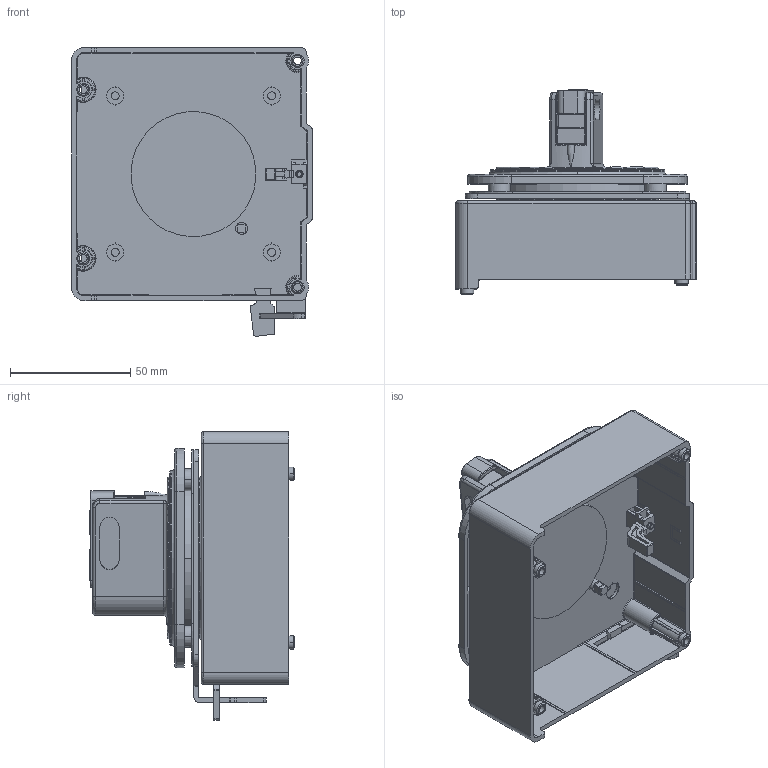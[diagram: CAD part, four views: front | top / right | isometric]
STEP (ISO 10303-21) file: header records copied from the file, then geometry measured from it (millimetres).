
FILE_DESCRIPTION(/* description */ (''),/* implementation_level */ '2;1');
FILE_NAME(/* name */ 'TFG25GP_3D DATA.stp',/* time_stamp */ '2018-06-05T09:29:24+09:00',/* author */ (''),/* organization */ (''),/* preprocessor_version */ 'ST-DEVELOPER v15',/* originating_system */ 'SIEMENS PLM Software NX 9.0',/* authorisation */ '');
FILE_SCHEMA (('AP203_CONFIGURATION_CONTROLLED_3D_DESIGN_OF_MECHANICAL_PARTS_AND_ASSEMBLIES_MIM_LF { 1 0 10303 403 2 1 2}'));
Products named in the file (14): G1_HM_HANDLE67800; G1_HM_LOCK_BUTTON85148; G1_HM_DOOR_COVER; U2_HM_FRAME; G1_HM_RELEASE_PIN111353; G3_HM_RELEASE_G_LEVER; U2_HM_TRIP_BUTTON; G1_HM_TFG_UPPER_LABEL141357; G3_HM_DOOR_LOCK_PLATE; G1_HM_RUBBER_PLATE; G1_HM_DOOR_COVER_ASSY_ASM; G1_HM_HANDLE_ASSY_ASM67809; U2_HM_TFG_U4_BASE_ASSY_ASM; u2_tfg_25gp_u4_asm_stp
Assembly tree (13 placements, depth 4):
  u2_tfg_25gp_u4_asm_stp
    G1_HM_RUBBER_PLATE
    U2_HM_TFG_U4_BASE_ASSY_ASM
      G1_HM_TFG_UPPER_LABEL141357
      U2_HM_TRIP_BUTTON
      G3_HM_RELEASE_G_LEVER
      G1_HM_RELEASE_PIN111353
      G1_HM_HANDLE_ASSY_ASM67809
        G1_HM_LOCK_BUTTON85148
        G1_HM_HANDLE67800
      U2_HM_FRAME
    G1_HM_DOOR_COVER_ASSY_ASM
      G1_HM_DOOR_COVER
    G3_HM_DOOR_LOCK_PLATE
Bounding box: 99.8 x 85.1 x 119.88 mm (x, y, z)
Volume: 178224.2 mm3; surface area: 108574.4 mm2
Topology: 10 solids, 11 shells, 1909 faces, 4890 edges, 3077 vertices
Faces by surface type: plane 933, cylinder 560, torus 187, sphere 65, bspline 59, extrusion 55, cone 50
Full cylindrical faces by diameter (mm): 51.9 x1
Entity records: 63551 total; most frequent: CARTESIAN_POINT 15462, ORIENTED_EDGE 9768, DIRECTION 9682, EDGE_CURVE 4884, AXIS2_PLACEMENT_3D 3282, VECTOR 3118, VERTEX_POINT 3077, LINE 3063
